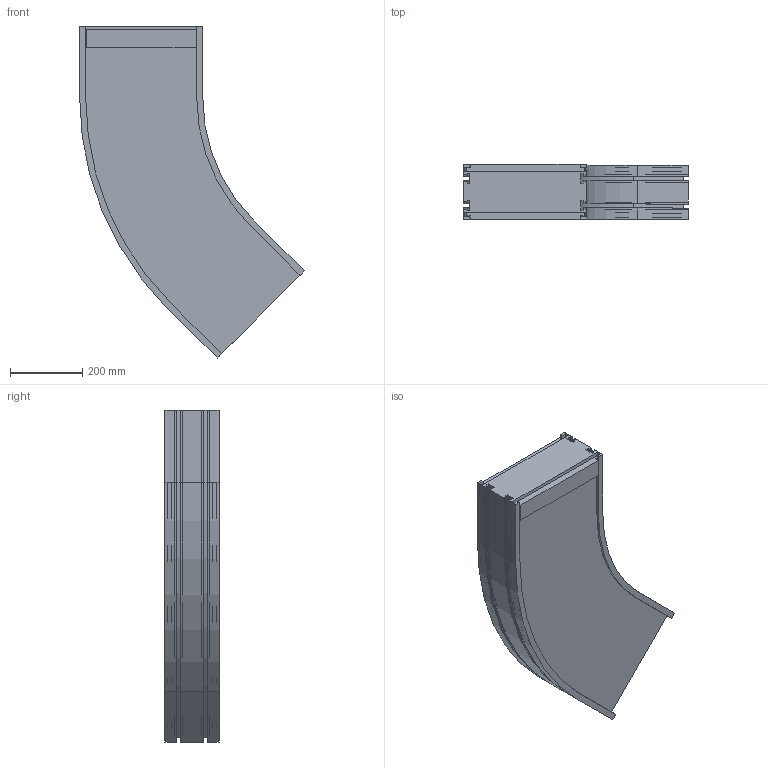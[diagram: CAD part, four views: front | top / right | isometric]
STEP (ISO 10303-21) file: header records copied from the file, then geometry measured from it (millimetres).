
FILE_DESCRIPTION (( 'STEP AP203' ), '1' );
FILE_NAME ('F2-1200-C45.STEP', '2009-01-23T07:50:12', ( 'faber' ), ( '' ), 'SwSTEP 2.0', 'SolidWorks 2008', '' );
FILE_SCHEMA (( 'CONFIG_CONTROL_DESIGN' ));
Length unit declared in the file: millimetre
Products named in the file (3): F2-1200-C45; Courbe_ 1200; Tapis_1200
Assembly tree (3 placements, depth 2):
  F2-1200-C45
    Tapis_1200  x2
    Courbe_ 1200
Bounding box: 623.72 x 152.88 x 921.96 mm (x, y, z)
Volume: 35657977.6 mm3; surface area: 1538365.4 mm2
Topology: 3 solids, 3 shells, 190 faces, 552 edges, 368 vertices
Faces by surface type: plane 148, cylinder 42
Entity records: 6273 total; most frequent: CARTESIAN_POINT 1066, ORIENTED_EDGE 1056, DIRECTION 984, EDGE_CURVE 528, LINE 444, VECTOR 444, VERTEX_POINT 352, AXIS2_PLACEMENT_3D 270
